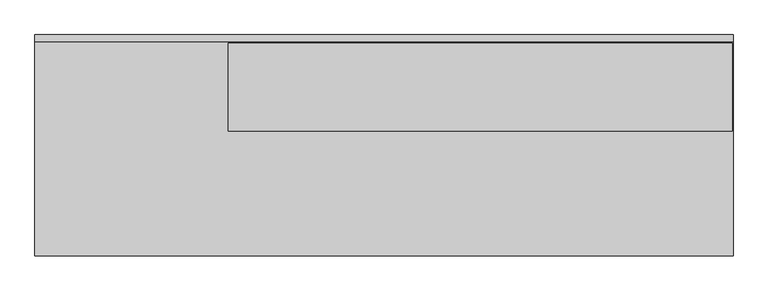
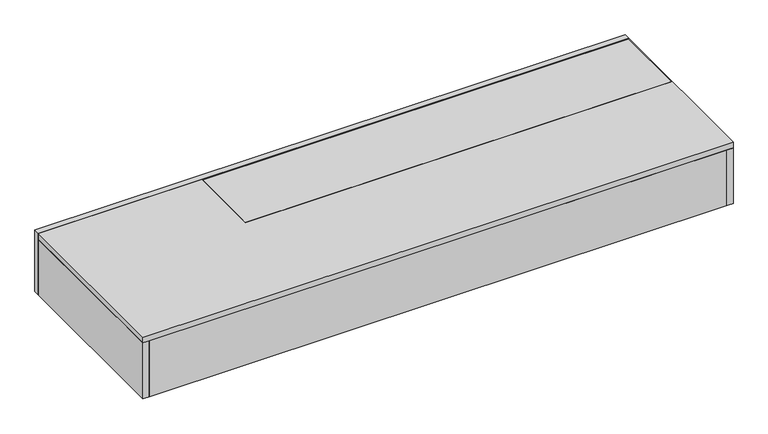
"""IFC4 building model written with IfcOpenShell, lengths in millimetres: proxy geometry, FOUNDATION^PO5_WIRE WALL-PARTS SOLID."""

import ifcopenshell
import ifcopenshell.guid

model = None  # the IFC model being written
_history = None  # IfcOwnerHistory: only IFC2X3 demands one
_inside = {}  # id of a spatial element -> (the spatial element, [elements in it])
_under = {}  # id of a project, library or spatial element -> (it, [spatial elements below it])
_declared = {}  # id of a project -> (the project, [libraries it declares])
_typed = {}  # id of a type object -> (the type object, [elements of that type])
_made_of = {}  # id of a material, layer set ... -> (it, [elements and type objects made of it])


def new_model(schema):
    """Start an empty IFC model of exactly this schema.

    Asked for "IFC4X3", IfcOpenShell would pick the latest addendum, in which some entities
    have other attributes; the version numbers below select the first issue.
    IFC2X3 requires an IfcOwnerHistory on every rooted entity: one is made here for all.
    """
    global model, _history
    if schema == "IFC4X3":
        model = ifcopenshell.file(schema_version=(4, 3, 0, 0))
    else:
        model = ifcopenshell.file(schema=schema)
    _inside.clear()
    _under.clear()
    _declared.clear()
    _typed.clear()
    _made_of.clear()
    _history = None
    if model.schema == "IFC2X3":
        org = make("IfcOrganization", Name="unknown")
        user = make(
            "IfcPersonAndOrganization",
            ThePerson=make("IfcPerson", FamilyName="unknown"),
            TheOrganization=org,
        )
        app = make(
            "IfcApplication",
            ApplicationDeveloper=org,
            Version="unknown",
            ApplicationFullName="unknown",
            ApplicationIdentifier="unknown",
        )
        _history = make(
            "IfcOwnerHistory",
            OwningUser=user,
            OwningApplication=app,
            ChangeAction="ADDED",
            CreationDate=0,
        )
    return model


def make(cls, **values):
    """One entity of the class cls with the attributes given. An attribute that is None is left unset."""
    return model.create_entity(
        cls, **{name: value for name, value in values.items() if value is not None}
    )


def rooted(cls, **values):
    """An entity with a GlobalId (a new one), such as an element, a storey or a relation."""
    return make(cls, GlobalId=ifcopenshell.guid.new(), OwnerHistory=_history, **values)


def si_unit(unit_type, name, prefix=None):
    """IfcSIUnit, for example si_unit("LENGTHUNIT", "METRE", prefix="MILLI")."""
    return make("IfcSIUnit", UnitType=unit_type, Prefix=prefix, Name=name)


def assignment(units):
    """IfcUnitAssignment: the units of a project."""
    return None if units is None else make("IfcUnitAssignment", Units=units)


def point(xyz):
    """IfcCartesianPoint."""
    return None if xyz is None else make("IfcCartesianPoint", Coordinates=xyz)


def direction(xyz):
    """IfcDirection."""
    return None if xyz is None else make("IfcDirection", DirectionRatios=xyz)


def frame(location, z_axis=None, x_axis=None):
    """IfcAxis2Placement3D, a coordinate frame: its origin and axes. An axis left out is left unset."""
    return make(
        "IfcAxis2Placement3D",
        Location=point(location),
        Axis=direction(z_axis),
        RefDirection=direction(x_axis),
    )


def origin():
    """The frame at (0, 0, 0) with its axes left unset."""
    return frame((0.0, 0.0, 0.0))


def origin_with_axes():
    """The frame at (0, 0, 0) with the z axis (0, 0, 1) and the x axis (1, 0, 0) written out."""
    return frame((0.0, 0.0, 0.0), z_axis=(0.0, 0.0, 1.0), x_axis=(1.0, 0.0, 0.0))


def place(relative_to, where):
    """IfcLocalPlacement: puts the frame where relative to a parent placement (None: the world)."""
    return make(
        "IfcLocalPlacement", PlacementRelTo=relative_to, RelativePlacement=where
    )


def context(
    kind, dimensions, precision=None, world=None, true_north=None, identifier=None
):
    """IfcGeometricRepresentationContext, for example the 3D "Model" context."""
    return make(
        "IfcGeometricRepresentationContext",
        ContextIdentifier=identifier,
        ContextType=kind,
        CoordinateSpaceDimension=dimensions,
        Precision=precision,
        WorldCoordinateSystem=world,
        TrueNorth=true_north,
    )


def project(units=None, contexts=None):
    """IfcProject with its units and contexts."""
    return rooted(
        "IfcProject",
        Name="project",
        RepresentationContexts=contexts,
        UnitsInContext=assignment(units),
    )


def spatial(cls, under=None, at=None, **own):
    """A site, building, storey or space (cls), placed at a placement, below another one or the project."""
    s = rooted(cls, ObjectPlacement=at, **own)
    if under is not None:
        _under.setdefault(under.id(), (under, []))[1].append(s)
    return s


def polyline(points):
    """IfcPolyline through the points."""
    return make("IfcPolyline", Points=[point(p) for p in points])


def outline(outer, holes=None, kind="AREA"):
    """IfcArbitraryClosedProfileDef: a profile drawn as a closed curve; with holes, ...WithVoids."""
    if holes is None:
        return make("IfcArbitraryClosedProfileDef", ProfileType=kind, OuterCurve=outer)
    return make(
        "IfcArbitraryProfileDefWithVoids",
        ProfileType=kind,
        OuterCurve=outer,
        InnerCurves=holes,
    )


def extrude(swept, where, along, depth):
    """IfcExtrudedAreaSolid: the profile swept, set in the frame where, extruded along a direction by depth."""
    return make(
        "IfcExtrudedAreaSolid",
        SweptArea=swept,
        Position=where,
        ExtrudedDirection=direction(along),
        Depth=depth,
    )


def shape(context_of_items, identifier, shape_type, items):
    """IfcShapeRepresentation: the items that make up one representation, for example the "Body"."""
    return make(
        "IfcShapeRepresentation",
        ContextOfItems=context_of_items,
        RepresentationIdentifier=identifier,
        RepresentationType=shape_type,
        Items=items,
    )


def source(mapping_origin, context_of_items, identifier, shape_type, items):
    """IfcRepresentationMap: a shape defined once, which mapped items show again and again."""
    return make(
        "IfcRepresentationMap",
        MappingOrigin=mapping_origin,
        MappedRepresentation=shape(context_of_items, identifier, shape_type, items),
    )


def transform(
    local_origin,
    x_axis=None,
    y_axis=None,
    z_axis=None,
    scale=None,
    scale2=None,
    scale3=None,
    uniform=True,
):
    """IfcCartesianTransformationOperator3D, or its non-uniform kind. x_axis, y_axis, z_axis: its Axis1, 2, 3."""
    if uniform:
        return make(
            "IfcCartesianTransformationOperator3D",
            Axis1=direction(x_axis),
            Axis2=direction(y_axis),
            LocalOrigin=point(local_origin),
            Scale=scale,
            Axis3=direction(z_axis),
        )
    return make(
        "IfcCartesianTransformationOperator3DnonUniform",
        Axis1=direction(x_axis),
        Axis2=direction(y_axis),
        LocalOrigin=point(local_origin),
        Scale=scale,
        Axis3=direction(z_axis),
        Scale2=scale2,
        Scale3=scale3,
    )


def mapped(mapping_source, mapping_target):
    """IfcMappedItem: shows the shape of a source again, moved by a transform."""
    return make(
        "IfcMappedItem", MappingSource=mapping_source, MappingTarget=mapping_target
    )


def made_of(thing, what):
    """Note that an element or type object is made of a material, layer set ...; save() writes the relation."""
    if what is not None:
        _made_of.setdefault(what.id(), (what, []))[1].append(thing)
    return thing


def element(
    cls,
    number,
    at=None,
    inside=None,
    cuts=None,
    type_object=None,
    material=None,
    context=None,
    identifier="Body",
    shape_type=None,
    held_by="IfcProductDefinitionShape",
    body=None,
    shapes=None,
    **own,
):
    """One element of the class cls, such as IfcWall. Its Tag is "e" and its number.

    at: its placement. inside: the storey or other place that contains it. cuts: it is an
    opening in that element (IfcRelVoidsElement). A single representation is given by context,
    identifier, shape_type and body (its items); several are given by shapes. held_by: the class
    of the entity that holds the representations. save() writes the other relations.
    """
    e = rooted(cls, Tag="e%d" % number, ObjectPlacement=at, **own)
    if body is not None:
        shapes = [shape(context, identifier, shape_type, body)]
    if shapes is not None:
        e.Representation = make(held_by, Representations=shapes)
    if inside is not None:
        _inside.setdefault(inside.id(), (inside, []))[1].append(e)
    if cuts is not None:
        rooted(
            "IfcRelVoidsElement", RelatingBuildingElement=cuts, RelatedOpeningElement=e
        )
    if type_object is not None:
        _typed.setdefault(type_object.id(), (type_object, []))[1].append(e)
    return made_of(e, material)


def aggregate(whole, parts):
    """IfcRelAggregates: a whole, such as a stair, and the parts it consists of."""
    return rooted("IfcRelAggregates", RelatingObject=whole, RelatedObjects=parts)


def save(model, path):
    """Write the relations noted so far, then the file.

    IfcRelAggregates (storeys below a building ...), IfcRelContainedInSpatialStructure (elements
    in a storey), IfcRelDefinesByType, IfcRelAssociatesMaterial and IfcRelDeclares: one each for
    every whole, place, type object, material and project.
    """
    for whole, parts in _under.values():
        aggregate(whole, parts)
    for where, things in _inside.values():
        rooted(
            "IfcRelContainedInSpatialStructure",
            RelatedElements=things,
            RelatingStructure=where,
        )
    for kind, things in _typed.values():
        rooted("IfcRelDefinesByType", RelatedObjects=things, RelatingType=kind)
    for what, things in _made_of.values():
        rooted("IfcRelAssociatesMaterial", RelatedObjects=things, RelatingMaterial=what)
    for by, libraries in _declared.values():
        rooted("IfcRelDeclares", RelatingContext=by, RelatedDefinitions=libraries)
    model.write(path)


def generic_models_34792bcb(model_context):
    return source(origin(), model_context, "Body", "SweptSolid", [
        extrude(outline(polyline([(1841.5, -19.05), (1841.5, -584.2), (1822.45, -584.2), (1822.45, -19.05), (1841.5, -19.05)])), origin_with_axes(), (0.0, 0.0, 1.0), 184.15),
        extrude(outline(polyline([(1822.45, -584.2), (19.05, -584.2), (19.05, -546.1), (1822.45, -546.1), (1822.45, -584.2)])), origin_with_axes(), (0.0, 0.0, 1.0), 184.15),
        extrude(outline(polyline([(0.0, -584.2), (0.0, -19.05), (19.05, -19.05), (19.05, -584.2), (0.0, -584.2)])), origin_with_axes(), (0.0, 0.0, 1.0), 184.15),
        extrude(outline(polyline([(510.38125, -254.0), (510.38125, -22.225), (1839.11875, -22.225), (1839.11875, -254.0), (510.38125, -254.0)])), frame((0.0, 0.0, 184.15), z_axis=(0.0, 0.0, 1.0), x_axis=(1.0, 0.0, 0.0)), (0.0, 0.0, 1.0), 19.05),
        extrude(outline(polyline([(1841.5, -19.05), (1841.5, -584.2), (0.0, -584.2), (0.0, -19.05), (1841.5, -19.05)])), frame((0.0, 0.0, 184.15), z_axis=(0.0, 0.0, 1.0), x_axis=(1.0, 0.0, 0.0)), (0.0, 0.0, 1.0), 19.05),
        extrude(outline(polyline([(0.0, -19.05), (0.0, 0.0), (1841.5, 0.0), (1841.5, -19.05), (0.0, -19.05)])), origin_with_axes(), (0.0, 0.0, 1.0), 203.2),
    ])


if __name__ == "__main__":
    model = new_model("IFC4")
    model_context = context("Model", 3, world=origin())
    ifc_project = project(units=[si_unit("LENGTHUNIT", "METRE", prefix="MILLI")], contexts=[model_context])
    site = spatial("IfcSite", under=ifc_project)
    building = spatial("IfcBuilding", under=site)
    placement = place(None, origin())
    generic_models_shape = generic_models_34792bcb(model_context)
    element("IfcBuildingElementProxy", 1, Name="FOUNDATION^PO5_WIRE WALL-PARTS SOLID", ObjectType="FOUNDATION^PO5_WIRE WALL-PARTS SOLID", at=placement, inside=building, context=model_context, shape_type="MappedRepresentation", body=[
        mapped(generic_models_shape, transform((0.0, 0.0, 0.0), x_axis=(1.0, 0.0, 0.0), y_axis=(0.0, 1.0, 0.0), z_axis=(0.0, 0.0, 1.0))),
    ])
    save(model, "model.ifc")
